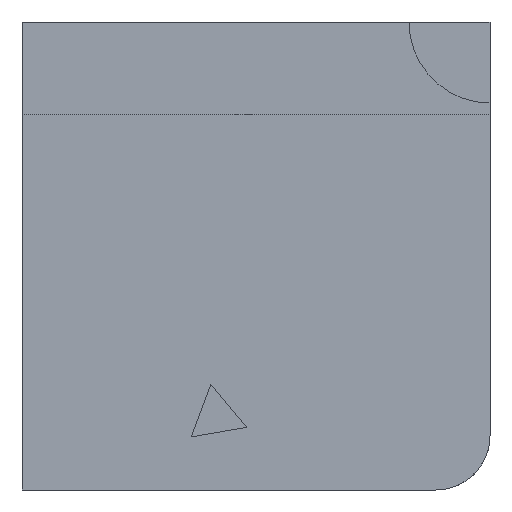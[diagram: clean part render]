
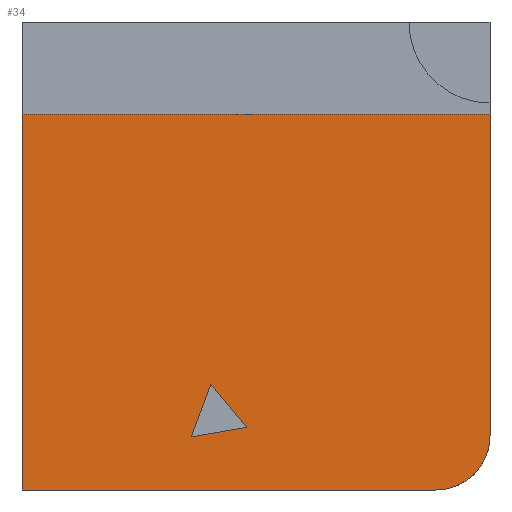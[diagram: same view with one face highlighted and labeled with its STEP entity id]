
A CAD part, left-side view. The second image highlights one B-rep face of the part: STEP entity #34.
In plain terms, the highlighted planar face has unit normal (-1, 0, 0).
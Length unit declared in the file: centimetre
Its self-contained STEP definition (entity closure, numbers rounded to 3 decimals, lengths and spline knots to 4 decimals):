
#9 = EDGE_CURVE ( 'NONE', #1563, #1649, #1189, .T. ) ;
#34 = ADVANCED_FACE ( 'NONE', ( #293, #254 ), #556, .F. ) ;
#70 = DIRECTION ( 'NONE',  ( 0., 0.64, 0.769 ) ) ;
#86 = VECTOR ( 'NONE', #1377, 100. ) ;
#88 = VECTOR ( 'NONE', #70, 100. ) ;
#111 = CARTESIAN_POINT ( 'NONE',  ( 0., 1000., 1000. ) ) ;
#119 = DIRECTION ( 'NONE',  ( 0., -1., 0. ) ) ;
#125 = EDGE_CURVE ( 'NONE', #833, #579, #1851, .T. ) ;
#127 = DIRECTION ( 'NONE',  ( 0., 0., -1. ) ) ;
#129 = CARTESIAN_POINT ( 'NONE',  ( 0., 596.4903, 226.4059 ) ) ;
#150 = AXIS2_PLACEMENT_3D ( 'NONE', #1498, #1468, #127 ) ;
#234 = ORIENTED_EDGE ( 'NONE', *, *, #1031, .F. ) ;
#249 = AXIS2_PLACEMENT_3D ( 'NONE', #111, #850, #442 ) ;
#254 = FACE_OUTER_BOUND ( 'NONE', #523, .T. ) ;
#292 = ORIENTED_EDGE ( 'NONE', *, *, #1505, .T. ) ;
#293 = FACE_BOUND ( 'NONE', #441, .T. ) ;
#367 = EDGE_CURVE ( 'NONE', #579, #380, #1154, .T. ) ;
#380 = VERTEX_POINT ( 'NONE', #1414 ) ;
#400 = VECTOR ( 'NONE', #1708, 100. ) ;
#401 = CARTESIAN_POINT ( 'NONE',  ( 0., 0., 116.1417 ) ) ;
#436 = CARTESIAN_POINT ( 'NONE',  ( 0., 0., 802.4847 ) ) ;
#441 = EDGE_LOOP ( 'NONE', ( #577, #1632, #1291 ) ) ;
#442 = DIRECTION ( 'NONE',  ( 0., 0., -1. ) ) ;
#489 = CARTESIAN_POINT ( 'NONE',  ( 0., 638.0956, 113.5076 ) ) ;
#523 = EDGE_LOOP ( 'NONE', ( #234, #826, #1258, #292, #1334 ) ) ;
#551 = VERTEX_POINT ( 'NONE', #401 ) ;
#556 = PLANE ( 'NONE',  #249 ) ;
#577 = ORIENTED_EDGE ( 'NONE', *, *, #367, .F. ) ;
#579 = VERTEX_POINT ( 'NONE', #984 ) ;
#597 = EDGE_CURVE ( 'NONE', #1953, #551, #1284, .T. ) ;
#640 = CARTESIAN_POINT ( 'NONE',  ( 0., 638.0956, 113.5076 ) ) ;
#727 = VERTEX_POINT ( 'NONE', #853 ) ;
#763 = LINE ( 'NONE', #129, #86 ) ;
#772 = DIRECTION ( 'NONE',  ( 0., 0., -1. ) ) ;
#789 = CARTESIAN_POINT ( 'NONE',  ( 0., 1000., 802.4847 ) ) ;
#807 = CARTESIAN_POINT ( 'NONE',  ( 0., 519.5201, 133.9255 ) ) ;
#826 = ORIENTED_EDGE ( 'NONE', *, *, #9, .F. ) ;
#833 = VERTEX_POINT ( 'NONE', #640 ) ;
#850 = DIRECTION ( 'NONE',  ( 1., 0., 0. ) ) ;
#853 = CARTESIAN_POINT ( 'NONE',  ( 0., 1000., 0. ) ) ;
#866 = CARTESIAN_POINT ( 'NONE',  ( 0., 1000., 0. ) ) ;
#909 = CARTESIAN_POINT ( 'NONE',  ( 0., 0., 1000. ) ) ;
#916 = CARTESIAN_POINT ( 'NONE',  ( 0., 1000., 1000. ) ) ;
#938 = VECTOR ( 'NONE', #119, 100. ) ;
#984 = CARTESIAN_POINT ( 'NONE',  ( 0., 519.5201, 133.9255 ) ) ;
#1031 = EDGE_CURVE ( 'NONE', #1649, #551, #1361, .T. ) ;
#1116 = EDGE_CURVE ( 'NONE', #1563, #727, #1216, .T. ) ;
#1127 = EDGE_CURVE ( 'NONE', #380, #833, #763, .T. ) ;
#1154 = LINE ( 'NONE', #807, #88 ) ;
#1178 = DIRECTION ( 'NONE',  ( 0., -1., 0. ) ) ;
#1181 = CARTESIAN_POINT ( 'NONE',  ( 0., 116.1417, 0. ) ) ;
#1189 = LINE ( 'NONE', #1495, #1252 ) ;
#1216 = LINE ( 'NONE', #916, #1963 ) ;
#1252 = VECTOR ( 'NONE', #1178, 100. ) ;
#1258 = ORIENTED_EDGE ( 'NONE', *, *, #1116, .T. ) ;
#1284 = CIRCLE ( 'NONE', #150, 116.1417 ) ;
#1291 = ORIENTED_EDGE ( 'NONE', *, *, #1127, .F. ) ;
#1334 = ORIENTED_EDGE ( 'NONE', *, *, #597, .T. ) ;
#1361 = LINE ( 'NONE', #909, #1546 ) ;
#1377 = DIRECTION ( 'NONE',  ( 0., 0.346, -0.938 ) ) ;
#1414 = CARTESIAN_POINT ( 'NONE',  ( 0., 596.4903, 226.4059 ) ) ;
#1468 = DIRECTION ( 'NONE',  ( -1., 0., 0. ) ) ;
#1495 = CARTESIAN_POINT ( 'NONE',  ( 0., 1000., 802.4847 ) ) ;
#1498 = CARTESIAN_POINT ( 'NONE',  ( 0., 116.1417, 116.1417 ) ) ;
#1505 = EDGE_CURVE ( 'NONE', #727, #1953, #1764, .T. ) ;
#1546 = VECTOR ( 'NONE', #1699, 100. ) ;
#1563 = VERTEX_POINT ( 'NONE', #789 ) ;
#1632 = ORIENTED_EDGE ( 'NONE', *, *, #125, .F. ) ;
#1649 = VERTEX_POINT ( 'NONE', #436 ) ;
#1699 = DIRECTION ( 'NONE',  ( 0., 0., -1. ) ) ;
#1708 = DIRECTION ( 'NONE',  ( 0., -0.985, 0.17 ) ) ;
#1764 = LINE ( 'NONE', #866, #938 ) ;
#1851 = LINE ( 'NONE', #489, #400 ) ;
#1953 = VERTEX_POINT ( 'NONE', #1181 ) ;
#1963 = VECTOR ( 'NONE', #772, 100. ) ;
